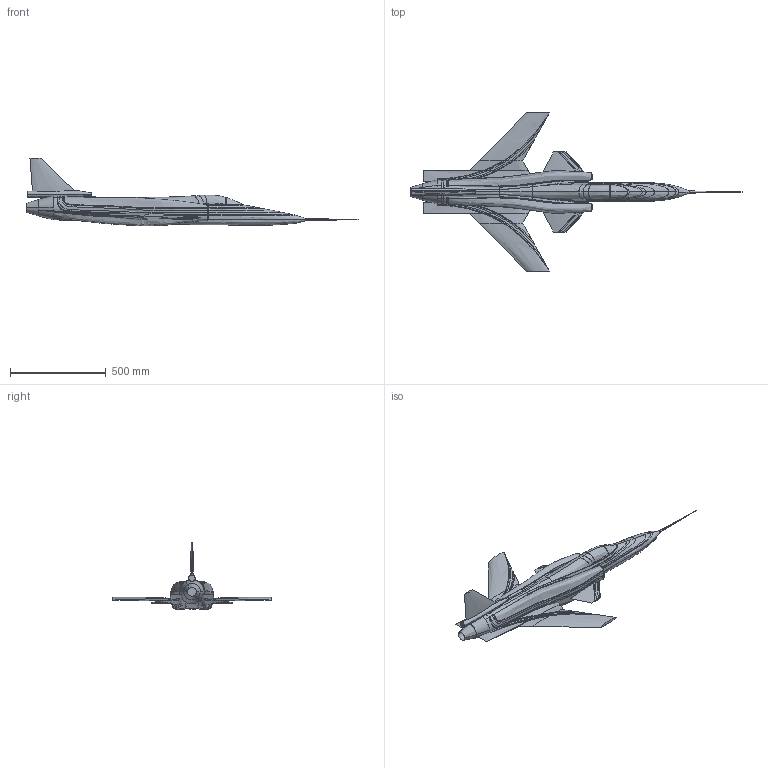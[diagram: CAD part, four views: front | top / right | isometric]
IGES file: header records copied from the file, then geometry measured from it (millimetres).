
Start section: START RECORD GO HERE.
Global section: file name: X29.igs; native system: IBM CATIA IGES - CATIA Version 5 Release 19 ; preprocessor: CATIA Version 5 Release 19 ; author: Pablo; organization: Pablo-EB; date: 20120314.204629; units: millimetre
Bounding box: 1729.72 x 828.49 x 350.84 mm (x, y, z)
Surface area: 1747074.9 mm2 (no closed solid volume)
Topology: 0 solids, 219 shells, 219 faces, 1083 edges, 1086 vertices
Faces by surface type: bspline 210, plane 9
